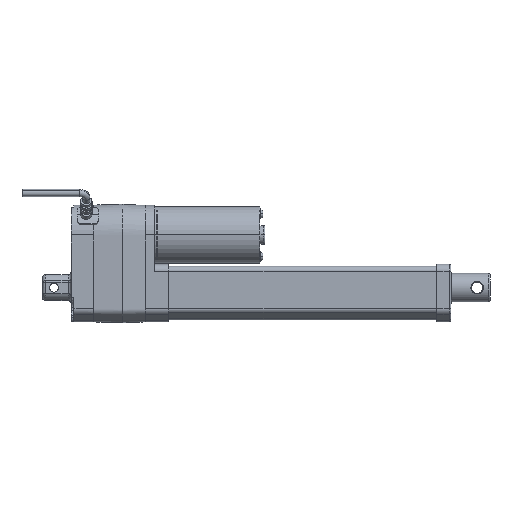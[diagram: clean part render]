
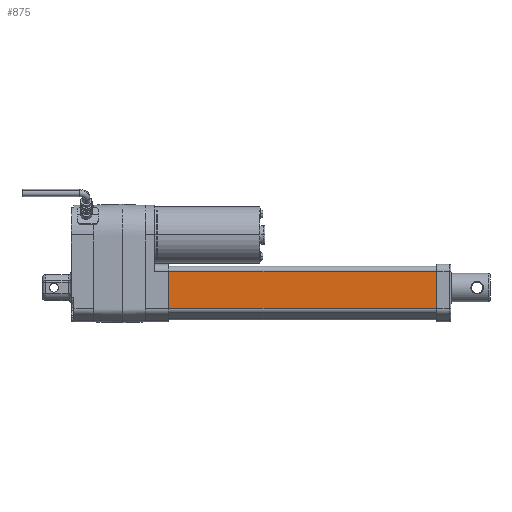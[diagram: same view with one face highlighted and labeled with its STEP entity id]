
A CAD part, top view. The second image highlights one B-rep face of the part: STEP entity #875.
In plain terms, the highlighted planar face has unit normal (0, 0, 1).
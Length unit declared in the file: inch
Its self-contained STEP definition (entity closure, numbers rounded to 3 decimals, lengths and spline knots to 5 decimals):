
#875=ADVANCED_FACE('',(#1821),#1822,.T.);
#1821=FACE_OUTER_BOUND('',#3186,.T.);
#1822=PLANE('',#3187);
#3186=EDGE_LOOP('',(#5738,#5739,#5740,#5741));
#3187=AXIS2_PLACEMENT_3D('',#5742,#5743,#5744);
#5738=ORIENTED_EDGE('',*,*,#7404,.F.);
#5739=ORIENTED_EDGE('',*,*,#7313,.F.);
#5740=ORIENTED_EDGE('',*,*,#6423,.T.);
#5741=ORIENTED_EDGE('',*,*,#7316,.T.);
#5742=CARTESIAN_POINT('',(10.09843,-0.5801,0.76772));
#5743=DIRECTION('',(0.0,-0.0,1.0));
#5744=DIRECTION('',(0.0,1.0,0.0));
#6423=EDGE_CURVE('',#7635,#7633,#7636,.T.);
#7313=EDGE_CURVE('',#7635,#9001,#9003,.T.);
#7316=EDGE_CURVE('',#7633,#9005,#9007,.T.);
#7404=EDGE_CURVE('',#9001,#9005,#9099,.T.);
#7633=VERTEX_POINT('',#9469);
#7635=VERTEX_POINT('',#9471);
#7636=LINE('',#9472,#9473);
#9001=VERTEX_POINT('',#11508);
#9003=LINE('',#11510,#11511);
#9005=VERTEX_POINT('',#11513);
#9007=LINE('',#11515,#11516);
#9099=LINE('',#11644,#11645);
#9469=CARTESIAN_POINT('',(10.09843,0.45276,0.76772));
#9471=CARTESIAN_POINT('',(10.09843,-0.5801,0.76772));
#9472=CARTESIAN_POINT('',(10.09843,-0.5801,0.76772));
#9473=VECTOR('',#11932,39.37008);
#11508=CARTESIAN_POINT('',(2.69685,-0.5801,0.76772));
#11510=CARTESIAN_POINT('',(10.09843,-0.5801,0.76772));
#11511=VECTOR('',#13182,39.37008);
#11513=CARTESIAN_POINT('',(2.69685,0.45276,0.76772));
#11515=CARTESIAN_POINT('',(10.09843,0.45276,0.76772));
#11516=VECTOR('',#13186,39.37008);
#11644=CARTESIAN_POINT('',(2.69685,0.45276,0.76772));
#11645=VECTOR('',#13258,39.37008);
#11932=DIRECTION('',(0.0,1.0,0.0));
#13182=DIRECTION('',(-1.0,0.0,0.0));
#13186=DIRECTION('',(-1.0,0.0,0.0));
#13258=DIRECTION('',(0.0,1.0,0.0));
